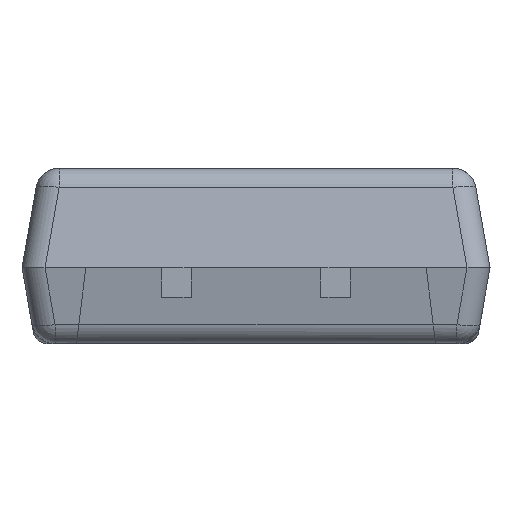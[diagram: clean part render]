
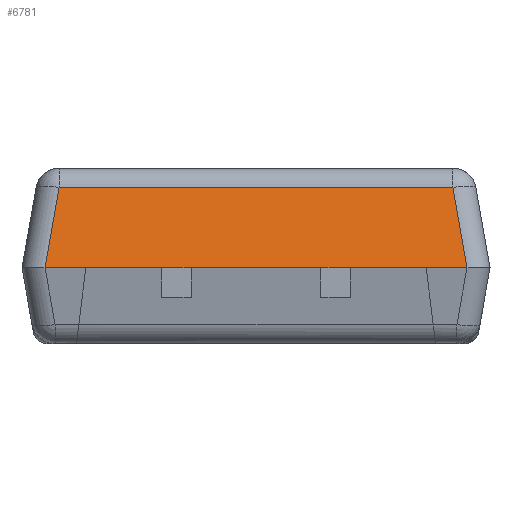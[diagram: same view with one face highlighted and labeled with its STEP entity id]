
A CAD part, left-side view. The second image highlights one B-rep face of the part: STEP entity #6781.
In plain terms, the highlighted planar face has unit normal (-0.985, 0, 0.174).
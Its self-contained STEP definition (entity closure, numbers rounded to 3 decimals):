
#50 = ORIENTED_EDGE ( 'NONE', *, *, #2873, .F. ) ;
#295 = EDGE_CURVE ( 'NONE', #6818, #6891, #7886, .T. ) ;
#300 = VECTOR ( 'NONE', #3963, 1000. ) ;
#524 = LINE ( 'NONE', #5826, #7254 ) ;
#542 = DIRECTION ( 'NONE',  ( 0.171, 0.171, 0.97 ) ) ;
#675 = LINE ( 'NONE', #8640, #7402 ) ;
#713 = LINE ( 'NONE', #4345, #8488 ) ;
#767 = LINE ( 'NONE', #1278, #2567 ) ;
#772 = ORIENTED_EDGE ( 'NONE', *, *, #295, .T. ) ;
#789 = EDGE_CURVE ( 'NONE', #6891, #6734, #5433, .T. ) ;
#887 = VERTEX_POINT ( 'NONE', #8290 ) ;
#889 = ORIENTED_EDGE ( 'NONE', *, *, #8225, .T. ) ;
#996 = EDGE_LOOP ( 'NONE', ( #1994, #50, #5573, #4716, #889, #7258, #7885, #2119, #2627, #772 ) ) ;
#1192 = CARTESIAN_POINT ( 'NONE',  ( 2.008, 11.633, 18.449 ) ) ;
#1278 = CARTESIAN_POINT ( 'NONE',  ( 2.129, 11.68, 19.134 ) ) ;
#1491 = LINE ( 'NONE', #8356, #6647 ) ;
#1586 = EDGE_CURVE ( 'NONE', #6512, #3696, #1491, .T. ) ;
#1677 = CARTESIAN_POINT ( 'NONE',  ( 2.008, 11.285, 18.449 ) ) ;
#1750 = VECTOR ( 'NONE', #6225, 1000. ) ;
#1994 = ORIENTED_EDGE ( 'NONE', *, *, #789, .T. ) ;
#2105 = CARTESIAN_POINT ( 'NONE',  ( 2.129, 8.148, 19.134 ) ) ;
#2119 = ORIENTED_EDGE ( 'NONE', *, *, #4849, .T. ) ;
#2175 = CARTESIAN_POINT ( 'NONE',  ( 2.008, 8.375, 18.449 ) ) ;
#2424 = CARTESIAN_POINT ( 'NONE',  ( 2.008, 9.025, 18.449 ) ) ;
#2453 = CARTESIAN_POINT ( 'NONE',  ( 2.008, 11.83, 18.449 ) ) ;
#2541 = VERTEX_POINT ( 'NONE', #2105 ) ;
#2567 = VECTOR ( 'NONE', #6011, 1000. ) ;
#2627 = ORIENTED_EDGE ( 'NONE', *, *, #6948, .T. ) ;
#2765 = DIRECTION ( 'NONE',  ( 0., -1., 0. ) ) ;
#2790 = CARTESIAN_POINT ( 'NONE',  ( 2.008, 8.375, 18.449 ) ) ;
#2873 = EDGE_CURVE ( 'NONE', #4937, #6734, #5567, .T. ) ;
#3102 = VERTEX_POINT ( 'NONE', #4428 ) ;
#3115 = DIRECTION ( 'NONE',  ( -0.174, 0., -0.985 ) ) ;
#3228 = EDGE_CURVE ( 'NONE', #6512, #887, #524, .T. ) ;
#3528 = FACE_OUTER_BOUND ( 'NONE', #996, .T. ) ;
#3537 = LINE ( 'NONE', #2175, #1750 ) ;
#3653 = DIRECTION ( 'NONE',  ( 0., 1., 0. ) ) ;
#3696 = VERTEX_POINT ( 'NONE', #2424 ) ;
#3808 = LINE ( 'NONE', #8158, #5594 ) ;
#3963 = DIRECTION ( 'NONE',  ( 0., -1., 0. ) ) ;
#4137 = CARTESIAN_POINT ( 'NONE',  ( 2.008, 10.635, 18.449 ) ) ;
#4345 = CARTESIAN_POINT ( 'NONE',  ( 2.008, 11.83, 18.449 ) ) ;
#4348 = CARTESIAN_POINT ( 'NONE',  ( 2.002, 11.639, 18.416 ) ) ;
#4428 = CARTESIAN_POINT ( 'NONE',  ( 2.008, 9.275, 18.449 ) ) ;
#4716 = ORIENTED_EDGE ( 'NONE', *, *, #6594, .F. ) ;
#4849 = EDGE_CURVE ( 'NONE', #887, #2541, #675, .T. ) ;
#4937 = VERTEX_POINT ( 'NONE', #4137 ) ;
#4950 = EDGE_CURVE ( 'NONE', #4937, #5362, #3808, .T. ) ;
#5353 = VECTOR ( 'NONE', #6810, 1000. ) ;
#5362 = VERTEX_POINT ( 'NONE', #5954 ) ;
#5433 = LINE ( 'NONE', #8003, #300 ) ;
#5567 = LINE ( 'NONE', #2790, #5353 ) ;
#5573 = ORIENTED_EDGE ( 'NONE', *, *, #4950, .T. ) ;
#5594 = VECTOR ( 'NONE', #2765, 1000. ) ;
#5826 = CARTESIAN_POINT ( 'NONE',  ( 2.008, 11.83, 18.449 ) ) ;
#5832 = CARTESIAN_POINT ( 'NONE',  ( 2.129, 11.513, 19.134 ) ) ;
#5954 = CARTESIAN_POINT ( 'NONE',  ( 2.008, 10.385, 18.449 ) ) ;
#6011 = DIRECTION ( 'NONE',  ( 0., 1., 0. ) ) ;
#6225 = DIRECTION ( 'NONE',  ( 0., 1., 0. ) ) ;
#6508 = DIRECTION ( 'NONE',  ( 0., -1., 0. ) ) ;
#6512 = VERTEX_POINT ( 'NONE', #7492 ) ;
#6594 = EDGE_CURVE ( 'NONE', #3102, #5362, #3537, .T. ) ;
#6647 = VECTOR ( 'NONE', #3653, 1000. ) ;
#6734 = VERTEX_POINT ( 'NONE', #1677 ) ;
#6781 = ADVANCED_FACE ( 'NONE', ( #3528 ), #7796, .T. ) ;
#6810 = DIRECTION ( 'NONE',  ( 0., 1., 0. ) ) ;
#6818 = VERTEX_POINT ( 'NONE', #5832 ) ;
#6891 = VERTEX_POINT ( 'NONE', #1192 ) ;
#6948 = EDGE_CURVE ( 'NONE', #2541, #6818, #767, .T. ) ;
#7144 = DIRECTION ( 'NONE',  ( -0.985, 0., 0.174 ) ) ;
#7254 = VECTOR ( 'NONE', #6508, 1000. ) ;
#7258 = ORIENTED_EDGE ( 'NONE', *, *, #1586, .F. ) ;
#7379 = AXIS2_PLACEMENT_3D ( 'NONE', #2453, #7144, #3115 ) ;
#7402 = VECTOR ( 'NONE', #542, 1000. ) ;
#7492 = CARTESIAN_POINT ( 'NONE',  ( 2.008, 8.375, 18.449 ) ) ;
#7671 = VECTOR ( 'NONE', #8403, 1000. ) ;
#7796 = PLANE ( 'NONE',  #7379 ) ;
#7885 = ORIENTED_EDGE ( 'NONE', *, *, #3228, .T. ) ;
#7886 = LINE ( 'NONE', #4348, #7671 ) ;
#8003 = CARTESIAN_POINT ( 'NONE',  ( 2.008, 11.83, 18.449 ) ) ;
#8158 = CARTESIAN_POINT ( 'NONE',  ( 2.008, 11.83, 18.449 ) ) ;
#8225 = EDGE_CURVE ( 'NONE', #3102, #3696, #713, .T. ) ;
#8290 = CARTESIAN_POINT ( 'NONE',  ( 2.008, 8.027, 18.449 ) ) ;
#8356 = CARTESIAN_POINT ( 'NONE',  ( 2.008, 8.375, 18.449 ) ) ;
#8371 = DIRECTION ( 'NONE',  ( 0., -1., 0. ) ) ;
#8403 = DIRECTION ( 'NONE',  ( -0.171, 0.171, -0.97 ) ) ;
#8488 = VECTOR ( 'NONE', #8371, 1000. ) ;
#8640 = CARTESIAN_POINT ( 'NONE',  ( 2.119, 8.139, 19.08 ) ) ;
